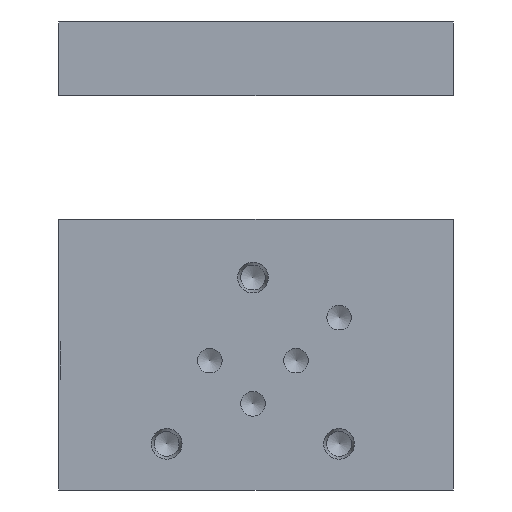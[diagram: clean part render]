
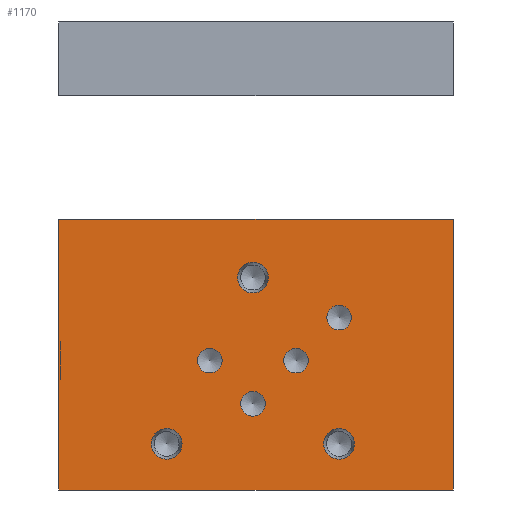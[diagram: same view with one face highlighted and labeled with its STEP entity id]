
A CAD part, front view. The second image highlights one B-rep face of the part: STEP entity #1170.
In plain terms, the highlighted planar face has unit normal (0, -1, 0).
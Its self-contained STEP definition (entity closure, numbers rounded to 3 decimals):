
#1170=ADVANCED_FACE('', (#1180,#1190,#1200,#1210,#1220,#1230,#1240,
#1250), #1260, .T.);
#5460=AXIS2_PLACEMENT_3D('Ax2Pl3d', #5470, #5480, #5490);
#5500=AXIS2_PLACEMENT_3D('Ax2Pl3d', #5510, #5520, #5530);
#5540=AXIS2_PLACEMENT_3D('Ax2Pl3d', #5550, #5560, #5570);
#5580=AXIS2_PLACEMENT_3D('Ax2Pl3d', #5590, #5600, #5610);
#5620=AXIS2_PLACEMENT_3D('Ax2Pl3d', #5630, #5640, #5650);
#5660=AXIS2_PLACEMENT_3D('Ax2Pl3d', #5670, #5680, #5690);
#5700=AXIS2_PLACEMENT_3D('Ax2Pl3d', #5710, #5720, #5730);
#5740=AXIS2_PLACEMENT_3D('Ax2Pl3d', #5750, #5760, #5770);
#9150=CARTESIAN_POINT('', (0.,0.,0.));
#9160=CARTESIAN_POINT('', (0.,0.,21.));
#9170=CARTESIAN_POINT('', (0.,0.,21.));
#9180=CARTESIAN_POINT('', (0.,0.,44.));
#9190=CARTESIAN_POINT('', (0.,0.,44.));
#9290=CARTESIAN_POINT('', (64.,0.,0.));
#9300=CARTESIAN_POINT('', (64.,0.,0.));
#9360=CARTESIAN_POINT('', (64.,0.,44.));
#9370=CARTESIAN_POINT('', (64.,0.,44.));
#9380=CARTESIAN_POINT('', (64.,0.,44.));
#5470=CARTESIAN_POINT('HicPkt', (0.,0.,44.));
#5510=CARTESIAN_POINT('HicPkt', (45.5,0.,28.));
#9430=CARTESIAN_POINT('', (45.5,0.,30.));
#5550=CARTESIAN_POINT('HicPkt', (31.5,0.,14.));
#9440=CARTESIAN_POINT('', (31.5,0.,16.));
#5590=CARTESIAN_POINT('HicPkt', (24.5,0.,21.));
#9450=CARTESIAN_POINT('', (24.5,0.,23.));
#5630=CARTESIAN_POINT('HicPkt', (38.5,0.,21.));
#9460=CARTESIAN_POINT('', (38.5,0.,23.));
#5670=CARTESIAN_POINT('HicPkt', (31.5,0.,34.5));
#9470=CARTESIAN_POINT('', (31.5,0.,37.));
#5710=CARTESIAN_POINT('HicPkt', (45.5,0.,7.5));
#9480=CARTESIAN_POINT('', (45.5,0.,10.));
#5750=CARTESIAN_POINT('HicPkt', (17.5,0.,7.5));
#9490=CARTESIAN_POINT('', (17.5,0.,10.));
#10150=CIRCLE('Circle', #5500, 2.);
#10160=CIRCLE('Circle', #5540, 2.);
#10170=CIRCLE('Circle', #5580, 2.);
#10180=CIRCLE('Circle', #5620, 2.);
#10190=CIRCLE('Circle', #5660, 2.5);
#10200=CIRCLE('Circle', #5700, 2.5);
#10210=CIRCLE('Circle', #5740, 2.5);
#14230=DIRECTION('', (0.,0.,1.));
#14240=DIRECTION('', (0.,0.,1.));
#14310=DIRECTION('', (1.,0.,0.));
#14330=DIRECTION('', (0.,0.,1.));
#14340=DIRECTION('', (1.,0.,0.));
#5480=DIRECTION('Axis', (0.,-1.,0.)
);
#5490=DIRECTION('RefDirection', (0.,
0.,-1.));
#5520=DIRECTION('Axis', (0.,-1.,0.)
);
#5530=DIRECTION('RefDirection', (0.,
0.,-1.));
#5560=DIRECTION('Axis', (0.,-1.,0.)
);
#5570=DIRECTION('RefDirection', (0.,
0.,-1.));
#5600=DIRECTION('Axis', (0.,-1.,0.)
);
#5610=DIRECTION('RefDirection', (0.,
0.,-1.));
#5640=DIRECTION('Axis', (0.,-1.,0.)
);
#5650=DIRECTION('RefDirection', (0.,
0.,-1.));
#5680=DIRECTION('Axis', (0.,-1.,0.)
);
#5690=DIRECTION('RefDirection', (0.,
0.,-1.));
#5720=DIRECTION('Axis', (0.,-1.,0.)
);
#5730=DIRECTION('RefDirection', (0.,
0.,-1.));
#5760=DIRECTION('Axis', (0.,-1.,0.)
);
#5770=DIRECTION('RefDirection', (0.,
0.,-1.));
#15090=EDGE_CURVE('', #15070, #15100, #15110, .T.);
#15120=EDGE_CURVE('', #15100, #15130, #15140, .T.);
#15320=EDGE_CURVE('', #15070, #15300, #15330, .T.);
#15450=EDGE_CURVE('', #15300, #15430, #15460, .T.);
#15470=EDGE_CURVE('', #15130, #15430, #15480, .T.);
#15570=EDGE_CURVE('', #15580, #15580, #10150, .T.);
#15590=EDGE_CURVE('', #15600, #15600, #10160, .T.);
#15610=EDGE_CURVE('', #15620, #15620, #10170, .T.);
#15630=EDGE_CURVE('', #15640, #15640, #10180, .T.);
#15650=EDGE_CURVE('', #15660, #15660, #10190, .T.);
#15670=EDGE_CURVE('', #15680, #15680, #10200, .T.);
#15690=EDGE_CURVE('', #15700, #15700, #10210, .T.);
#17790=EDGE_LOOP('Edge_loop', (#17800,#17810,#17820,#17830,#17840));
#17850=EDGE_LOOP('Edge_loop', (#17860));
#17870=EDGE_LOOP('Edge_loop', (#17880));
#17890=EDGE_LOOP('Edge_loop', (#17900));
#17910=EDGE_LOOP('Edge_loop', (#17920));
#17930=EDGE_LOOP('Edge_loop', (#17940));
#17950=EDGE_LOOP('Edge_loop', (#17960));
#17970=EDGE_LOOP('Edge_loop', (#17980));
#1190=FACE_BOUND('', #17850, .T.);
#1200=FACE_BOUND('', #17870, .T.);
#1210=FACE_BOUND('', #17890, .T.);
#1220=FACE_BOUND('', #17910, .T.);
#1230=FACE_BOUND('', #17930, .T.);
#1240=FACE_BOUND('', #17950, .T.);
#1250=FACE_BOUND('', #17970, .T.);
#1180=FACE_OUTER_BOUND('Face_outer_bound', #17790, .T.);
#15110=LINE('Line', #9160, #21570);
#15140=LINE('Line', #9180, #21580);
#15330=LINE('Line', #9300, #21650);
#15460=LINE('Line', #9370, #21670);
#15480=LINE('Line', #9380, #21680);
#17800=ORIENTED_EDGE('', *, *, #15470, .F.);
#17810=ORIENTED_EDGE('', *, *, #15120, .F.);
#17820=ORIENTED_EDGE('', *, *, #15090, .F.);
#17830=ORIENTED_EDGE('', *, *, #15320, .T.);
#17840=ORIENTED_EDGE('', *, *, #15450, .T.);
#17860=ORIENTED_EDGE('', *, *, #15570, .F.);
#17880=ORIENTED_EDGE('', *, *, #15590, .F.);
#17900=ORIENTED_EDGE('', *, *, #15610, .F.);
#17920=ORIENTED_EDGE('', *, *, #15630, .F.);
#17940=ORIENTED_EDGE('', *, *, #15650, .F.);
#17960=ORIENTED_EDGE('', *, *, #15670, .F.);
#17980=ORIENTED_EDGE('', *, *, #15690, .F.);
#1260=PLANE('Plane', #5460);
#21570=VECTOR('', #14230, 21.);
#21580=VECTOR('', #14240, 23.);
#21650=VECTOR('', #14310, 64.);
#21670=VECTOR('', #14330, 44.);
#21680=VECTOR('', #14340, 64.);
#15070=VERTEX_POINT('', #9150);
#15100=VERTEX_POINT('', #9170);
#15130=VERTEX_POINT('', #9190);
#15300=VERTEX_POINT('', #9290);
#15430=VERTEX_POINT('', #9360);
#15580=VERTEX_POINT('', #9430);
#15600=VERTEX_POINT('', #9440);
#15620=VERTEX_POINT('', #9450);
#15640=VERTEX_POINT('', #9460);
#15660=VERTEX_POINT('', #9470);
#15680=VERTEX_POINT('', #9480);
#15700=VERTEX_POINT('', #9490);
